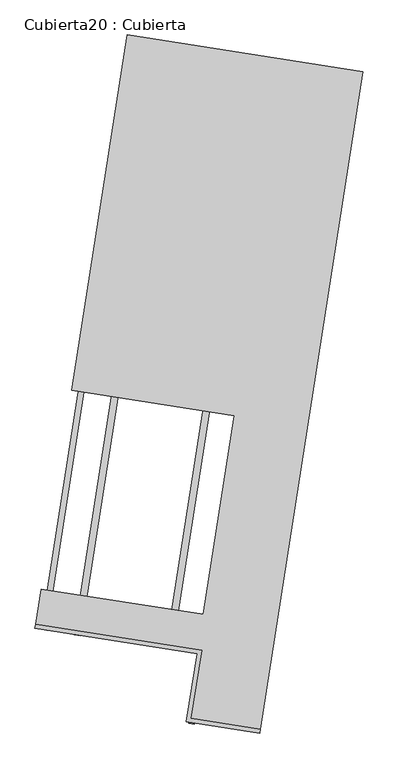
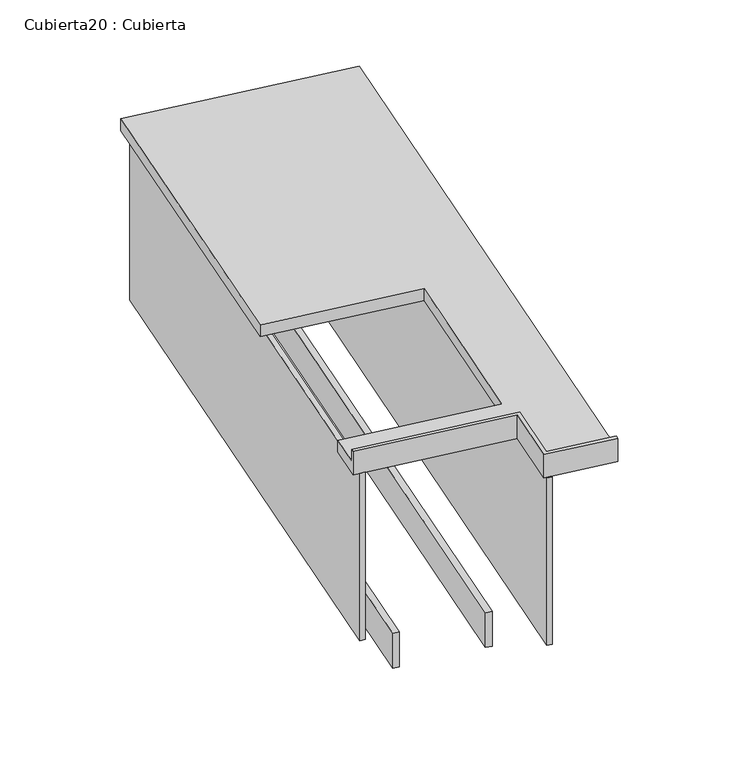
"""IFC4 building model written with IfcOpenShell, lengths in millimetres: furniture geometry, Cubierta20 : Cubierta."""

from ifc_helpers import new_model, si_unit, frame, origin, place, context, project, spatial, polyline, outline, extrude, faceted_brep, source, transform, mapped, element, save


def cubierta20_cubierta_c2a8f201(model_context):
    return source(origin(), model_context, "Body", "SolidModel", [
        extrude(outline(polyline([(-41443.253885, -58226.1470663), (-41769.7548292, -60320.8539985), (-41794.4565619, -60317.0037515), (-41471.8058647, -58246.9985521), (-41792.9283859, -58196.9453419), (-42115.5790828, -60266.9505414), (-42140.2808154, -60263.1002944), (-41813.7798716, -58168.3933622), (-41443.253885, -58226.1470663)])), frame((0.0, 0.0, 9600.0), z_axis=(0.0, 0.0, 1.0), x_axis=(1.0, 0.0, 0.0)), (0.0, 0.0, 1.0), 150.0),
        extrude(outline(polyline([(-41918.0373001, -58025.6334638), (-41300.4939866, -58121.8896378), (-41687.0587823, -60601.9435906), (-41706.8201684, -60598.863393), (-41323.3355704, -58138.5708263), (-41901.3561116, -58048.4750476), (-42244.0280928, -60246.929257), (-42263.7894789, -60243.8490595), (-41918.0373001, -58025.6334638)])), frame((0.0, 0.0, 9750.0), z_axis=(0.0, 0.0, 1.0), x_axis=(1.0, 0.0, 0.0)), (0.0, 0.0, 1.0), 720.0),
        faceted_brep([(-41049.6264128, -58135.6903749, 10520.0), (-41938.8887859, -57997.0814843, 10520.0), (-42148.3422215, -59340.8557423, 10520.0), (-41535.7392507, -59436.3418675, 10520.0), (-41652.7867589, -60187.2745415, 10520.0), (-42265.3897297, -60091.7884163, 10520.0), (-42286.1810634, -60225.1777729, 10520.0), (-41658.7570649, -60322.9740444, 10520.0), (-41698.7996329, -60579.8720607, 10520.0), (-41436.9612585, -60620.684679, 10520.0), (-41049.6264128, -58135.6903749, 10470.0), (-41439.2714066, -60635.5057186, 10470.0), (-41715.9308207, -60592.3829522, 10470.0), (-41675.8882527, -60335.4849358, 10470.0), (-42288.4912116, -60239.9988125, 10470.0), (-42265.3897297, -60091.7884163, 10470.0), (-41652.7867589, -60187.2745415, 10470.0), (-41535.7392507, -59436.3418675, 10470.0), (-42148.3422215, -59340.8557423, 10470.0), (-41938.8887859, -57997.0814843, 10470.0), (-41436.9612585, -60620.684679, 10570.0), (-41439.2714067, -60635.5057186, 10570.0), (-41698.7996329, -60579.8720607, 10570.0), (-41658.7570649, -60322.9740444, 10570.0), (-42286.1810634, -60225.1777729, 10570.0), (-42288.4912116, -60239.9988125, 10570.0), (-41675.8882527, -60335.4849358, 10570.0), (-41715.9308207, -60592.3829522, 10570.0)], [[[0, 1, 2, 3, 4, 5, 6, 7, 8, 9]], [[10, 11, 12, 13, 14, 15, 16, 17, 18, 19]], [[11, 10, 0, 9, 20, 21]], [[21, 20, 22, 23, 24, 25, 26, 27]], [[20, 9, 8, 22]], [[11, 21, 27, 12]], [[25, 24, 6, 5, 15, 14]], [[2, 1, 19, 18]], [[1, 0, 10, 19]], [[5, 4, 16, 15]], [[4, 3, 17, 16]], [[3, 2, 18, 17]], [[12, 27, 26, 13]], [[23, 22, 8, 7]], [[13, 26, 25, 14]], [[24, 23, 7, 6]]]),
    ])


if __name__ == "__main__":
    model = new_model("IFC4")
    model_context = context("Model", 3, world=origin())
    ifc_project = project(units=[si_unit("LENGTHUNIT", "METRE", prefix="MILLI")], contexts=[model_context])
    site = spatial("IfcSite", under=ifc_project)
    building = spatial("IfcBuilding", under=site)
    placement = place(None, origin())
    cubierta20_cubierta_shape = cubierta20_cubierta_c2a8f201(model_context)
    element("IfcFurniture", 1, ObjectType="Cubierta20 : Cubierta", at=placement, inside=building, context=model_context, shape_type="MappedRepresentation", body=[
        mapped(cubierta20_cubierta_shape, transform((0.0, 0.0, 0.0), x_axis=(1.0, 0.0, 0.0), y_axis=(0.0, 1.0, 0.0), z_axis=(0.0, 0.0, 1.0))),
    ])
    save(model, "model.ifc")
